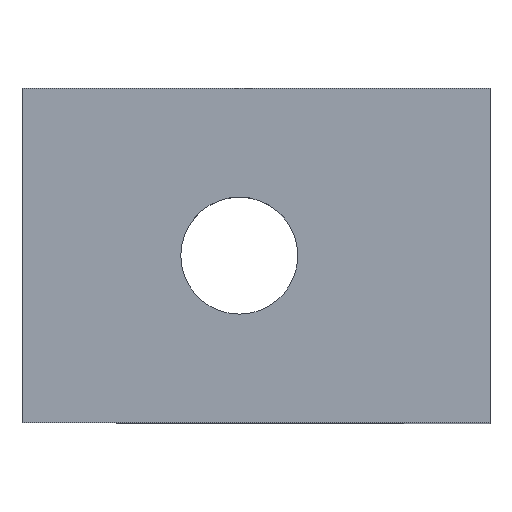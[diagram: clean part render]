
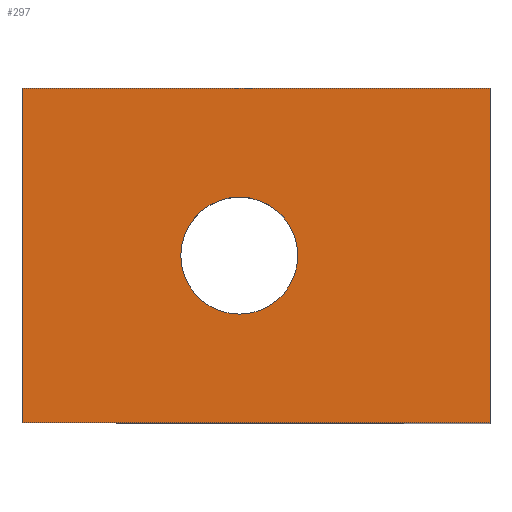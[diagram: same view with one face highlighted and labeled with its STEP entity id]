
A CAD part, top view. The second image highlights one B-rep face of the part: STEP entity #297.
In plain terms, the highlighted planar face has unit normal (0, 0, 1).
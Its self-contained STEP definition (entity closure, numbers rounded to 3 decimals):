
#9=DIRECTION('',(1.,0.,0.));
#10=VECTOR('',#9,28.);
#11=CARTESIAN_POINT('',(-28.,-10.,0.));
#12=LINE('',#11,#10);
#45=DIRECTION('',(0.,1.,0.));
#46=VECTOR('',#45,20.);
#47=CARTESIAN_POINT('',(0.,-10.,0.));
#48=LINE('',#47,#46);
#59=DIRECTION('',(0.,1.,0.));
#60=VECTOR('',#59,20.);
#61=CARTESIAN_POINT('',(-28.,-10.,0.));
#62=LINE('',#61,#60);
#63=CARTESIAN_POINT('',(-15.,0.,0.));
#64=DIRECTION('',(0.,0.,1.));
#65=DIRECTION('',(-1.,0.,0.));
#66=AXIS2_PLACEMENT_3D('',#63,#64,#65);
#68=CARTESIAN_POINT('',(-15.,0.,0.));
#69=DIRECTION('',(0.,0.,1.));
#70=DIRECTION('',(1.,0.,0.));
#71=AXIS2_PLACEMENT_3D('',#68,#69,#70);
#89=DIRECTION('',(1.,0.,0.));
#90=VECTOR('',#89,28.);
#91=CARTESIAN_POINT('',(-28.,10.,0.));
#92=LINE('',#91,#90);
#153=CARTESIAN_POINT('',(0.,-10.,0.));
#155=VERTEX_POINT('',#153);
#157=CARTESIAN_POINT('',(-28.,-10.,0.));
#158=VERTEX_POINT('',#157);
#159=CARTESIAN_POINT('',(0.,10.,0.));
#161=VERTEX_POINT('',#159);
#163=CARTESIAN_POINT('',(-28.,10.,0.));
#164=VERTEX_POINT('',#163);
#193=CARTESIAN_POINT('',(-18.5,0.,0.));
#194=CARTESIAN_POINT('',(-11.5,0.,0.));
#195=VERTEX_POINT('',#193);
#196=VERTEX_POINT('',#194);
#278=CARTESIAN_POINT('',(-28.,-10.,0.));
#279=DIRECTION('',(0.,0.,1.));
#280=DIRECTION('',(1.,0.,0.));
#281=AXIS2_PLACEMENT_3D('',#278,#279,#280);
#282=PLANE('',#281);
#283=ORIENTED_EDGE('',*,*,#210,.F.);
#285=ORIENTED_EDGE('',*,*,#284,.T.);
#287=ORIENTED_EDGE('',*,*,#286,.T.);
#288=ORIENTED_EDGE('',*,*,#264,.F.);
#289=EDGE_LOOP('',(#283,#285,#287,#288));
#290=FACE_OUTER_BOUND('',#289,.F.);
#292=ORIENTED_EDGE('',*,*,#291,.T.);
#294=ORIENTED_EDGE('',*,*,#293,.T.);
#295=EDGE_LOOP('',(#292,#294));
#296=FACE_BOUND('',#295,.F.);
#297=ADVANCED_FACE('',(#290,#296),#282,.T.);
#67=CIRCLE('',#66,3.5);
#72=CIRCLE('',#71,3.5);
#210=EDGE_CURVE('',#158,#155,#12,.T.);
#264=EDGE_CURVE('',#155,#161,#48,.T.);
#284=EDGE_CURVE('',#158,#164,#62,.T.);
#286=EDGE_CURVE('',#164,#161,#92,.T.);
#291=EDGE_CURVE('',#195,#196,#67,.T.);
#293=EDGE_CURVE('',#196,#195,#72,.T.);
